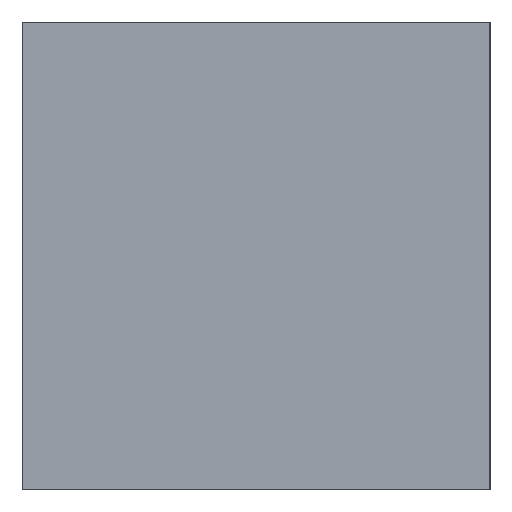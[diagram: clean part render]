
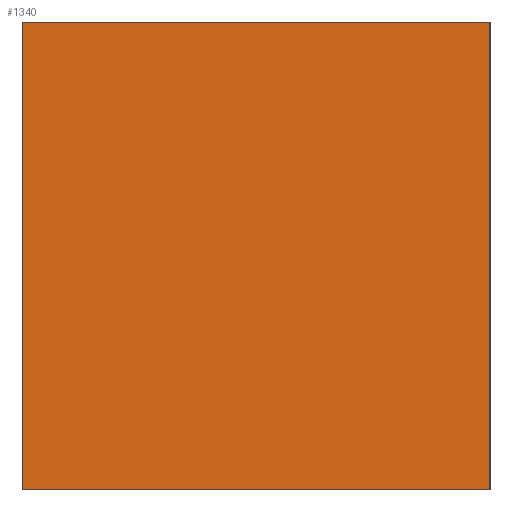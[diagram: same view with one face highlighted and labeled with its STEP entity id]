
A CAD part, left-side view. The second image highlights one B-rep face of the part: STEP entity #1340.
In plain terms, the highlighted planar face has unit normal (1, 0, 0).
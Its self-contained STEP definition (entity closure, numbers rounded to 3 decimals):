
#1301=CARTESIAN_POINT('Axis2P3D Location',(-50.,0.,0.)) ;
#1306=CARTESIAN_POINT('Line Origine',(-50.,0.,-25.)) ;
#1310=CARTESIAN_POINT('Vertex',(-50.,-12.5,-25.)) ;
#1312=CARTESIAN_POINT('Vertex',(-50.,12.5,-25.)) ;
#1315=CARTESIAN_POINT('Line Origine',(-50.,12.5,-12.5)) ;
#1319=CARTESIAN_POINT('Vertex',(-50.,12.5,0.)) ;
#1322=CARTESIAN_POINT('Line Origine',(-50.,0.,0.)) ;
#1326=CARTESIAN_POINT('Vertex',(-50.,-12.5,0.)) ;
#1329=CARTESIAN_POINT('Line Origine',(-50.,-12.5,-12.5)) ;
#1302=DIRECTION('Axis2P3D Direction',(1.,0.,0.)) ;
#1303=DIRECTION('Axis2P3D XDirection',(0.,1.,0.)) ;
#1307=DIRECTION('Vector Direction',(0.,1.,0.)) ;
#1316=DIRECTION('Vector Direction',(0.,0.,1.)) ;
#1323=DIRECTION('Vector Direction',(0.,-1.,0.)) ;
#1330=DIRECTION('Vector Direction',(0.,0.,-1.)) ;
#1304=AXIS2_PLACEMENT_3D('Plane Axis2P3D',#1301,#1302,#1303) ;
#1335=ORIENTED_EDGE('',*,*,#1314,.T.) ;
#1336=ORIENTED_EDGE('',*,*,#1321,.T.) ;
#1337=ORIENTED_EDGE('',*,*,#1328,.T.) ;
#1338=ORIENTED_EDGE('',*,*,#1333,.T.) ;
#1308=VECTOR('Line Direction',#1307,1.) ;
#1317=VECTOR('Line Direction',#1316,1.) ;
#1324=VECTOR('Line Direction',#1323,1.) ;
#1331=VECTOR('Line Direction',#1330,1.) ;
#1340=ADVANCED_FACE('MANIFOLD_SOLID_BREP #3622',(#1339),#1305,.T.) ;
#1314=EDGE_CURVE('',#1311,#1313,#1309,.T.) ;
#1321=EDGE_CURVE('',#1313,#1320,#1318,.T.) ;
#1328=EDGE_CURVE('',#1320,#1327,#1325,.T.) ;
#1333=EDGE_CURVE('',#1327,#1311,#1332,.T.) ;
#1334=EDGE_LOOP('',(#1335,#1336,#1337,#1338)) ;
#1339=FACE_OUTER_BOUND('',#1334,.T.) ;
#1309=LINE('Line',#1306,#1308) ;
#1318=LINE('Line',#1315,#1317) ;
#1325=LINE('Line',#1322,#1324) ;
#1332=LINE('Line',#1329,#1331) ;
#1305=PLANE('Plane',#1304) ;
#1311=VERTEX_POINT('',#1310) ;
#1313=VERTEX_POINT('',#1312) ;
#1320=VERTEX_POINT('',#1319) ;
#1327=VERTEX_POINT('',#1326) ;
